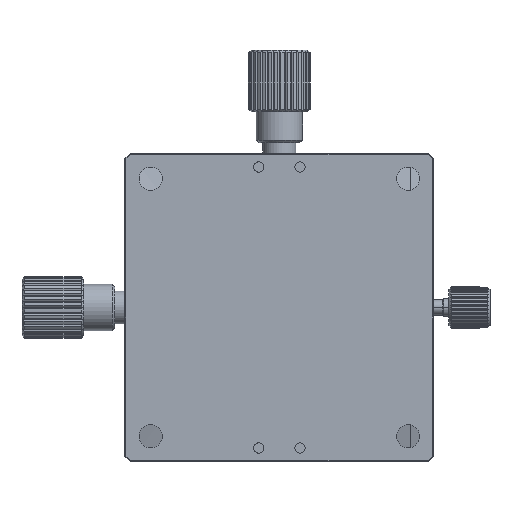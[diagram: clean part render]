
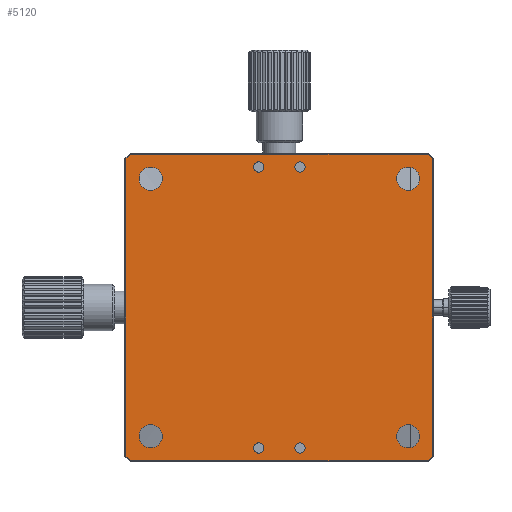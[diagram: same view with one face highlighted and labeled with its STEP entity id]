
A CAD part, front view. The second image highlights one B-rep face of the part: STEP entity #5120.
In plain terms, the highlighted planar face has unit normal (0, -1, 0).
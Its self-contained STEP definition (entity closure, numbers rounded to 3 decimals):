
#1101=CARTESIAN_POINT('',(25.,-10.,-25.));
#1102=DIRECTION('',(0.,1.,0.));
#1103=DIRECTION('',(1.,0.,0.));
#1104=AXIS2_PLACEMENT_3D('',#1101,#1102,#1103);
#1106=CARTESIAN_POINT('',(25.,-10.,-25.));
#1107=DIRECTION('',(0.,1.,0.));
#1108=DIRECTION('',(-1.,0.,0.));
#1109=AXIS2_PLACEMENT_3D('',#1106,#1107,#1108);
#1111=CARTESIAN_POINT('',(-25.,-10.,-25.));
#1112=DIRECTION('',(0.,1.,0.));
#1113=DIRECTION('',(1.,0.,0.));
#1114=AXIS2_PLACEMENT_3D('',#1111,#1112,#1113);
#1116=CARTESIAN_POINT('',(-25.,-10.,-25.));
#1117=DIRECTION('',(0.,1.,0.));
#1118=DIRECTION('',(-1.,0.,0.));
#1119=AXIS2_PLACEMENT_3D('',#1116,#1117,#1118);
#1121=CARTESIAN_POINT('',(25.,-10.,25.));
#1122=DIRECTION('',(0.,1.,0.));
#1123=DIRECTION('',(1.,0.,0.));
#1124=AXIS2_PLACEMENT_3D('',#1121,#1122,#1123);
#1126=CARTESIAN_POINT('',(25.,-10.,25.));
#1127=DIRECTION('',(0.,1.,0.));
#1128=DIRECTION('',(-1.,0.,0.));
#1129=AXIS2_PLACEMENT_3D('',#1126,#1127,#1128);
#1131=CARTESIAN_POINT('',(-25.,-10.,25.));
#1132=DIRECTION('',(0.,1.,0.));
#1133=DIRECTION('',(1.,0.,0.));
#1134=AXIS2_PLACEMENT_3D('',#1131,#1132,#1133);
#1136=CARTESIAN_POINT('',(-25.,-10.,25.));
#1137=DIRECTION('',(0.,1.,0.));
#1138=DIRECTION('',(-1.,0.,0.));
#1139=AXIS2_PLACEMENT_3D('',#1136,#1137,#1138);
#1141=DIRECTION('',(1.,0.,0.));
#1142=VECTOR('',#1141,57.834);
#1143=CARTESIAN_POINT('',(-28.917,-10.,-29.8));
#1144=LINE('',#1143,#1142);
#1145=DIRECTION('',(0.707,0.,-0.707));
#1146=VECTOR('',#1145,1.249);
#1147=CARTESIAN_POINT('',(-29.8,-10.,-28.917));
#1148=LINE('',#1147,#1146);
#1149=DIRECTION('',(0.,0.,-1.));
#1150=VECTOR('',#1149,57.834);
#1151=CARTESIAN_POINT('',(-29.8,-10.,28.917));
#1152=LINE('',#1151,#1150);
#1153=DIRECTION('',(-0.707,0.,-0.707));
#1154=VECTOR('',#1153,1.249);
#1155=CARTESIAN_POINT('',(-28.917,-10.,29.8));
#1156=LINE('',#1155,#1154);
#1157=DIRECTION('',(-1.,0.,0.));
#1158=VECTOR('',#1157,57.834);
#1159=CARTESIAN_POINT('',(28.917,-10.,29.8));
#1160=LINE('',#1159,#1158);
#1161=DIRECTION('',(-0.707,0.,0.707));
#1162=VECTOR('',#1161,1.249);
#1163=CARTESIAN_POINT('',(29.8,-10.,28.917));
#1164=LINE('',#1163,#1162);
#1165=DIRECTION('',(0.,0.,1.));
#1166=VECTOR('',#1165,57.834);
#1167=CARTESIAN_POINT('',(29.8,-10.,-28.917));
#1168=LINE('',#1167,#1166);
#1169=DIRECTION('',(0.707,0.,0.707));
#1170=VECTOR('',#1169,1.249);
#1171=CARTESIAN_POINT('',(28.917,-10.,-29.8));
#1172=LINE('',#1171,#1170);
#1173=CARTESIAN_POINT('',(4.,-10.,-27.3));
#1174=DIRECTION('',(0.,-1.,0.));
#1175=DIRECTION('',(-1.,0.,0.));
#1176=AXIS2_PLACEMENT_3D('',#1173,#1174,#1175);
#1178=CARTESIAN_POINT('',(4.,-10.,-27.3));
#1179=DIRECTION('',(0.,-1.,0.));
#1180=DIRECTION('',(1.,0.,0.));
#1181=AXIS2_PLACEMENT_3D('',#1178,#1179,#1180);
#1183=CARTESIAN_POINT('',(-4.,-10.,-27.3));
#1184=DIRECTION('',(0.,-1.,0.));
#1185=DIRECTION('',(-1.,0.,0.));
#1186=AXIS2_PLACEMENT_3D('',#1183,#1184,#1185);
#1188=CARTESIAN_POINT('',(-4.,-10.,-27.3));
#1189=DIRECTION('',(0.,-1.,0.));
#1190=DIRECTION('',(1.,0.,0.));
#1191=AXIS2_PLACEMENT_3D('',#1188,#1189,#1190);
#1193=CARTESIAN_POINT('',(4.,-10.,27.3));
#1194=DIRECTION('',(0.,-1.,0.));
#1195=DIRECTION('',(-1.,0.,0.));
#1196=AXIS2_PLACEMENT_3D('',#1193,#1194,#1195);
#1198=CARTESIAN_POINT('',(4.,-10.,27.3));
#1199=DIRECTION('',(0.,-1.,0.));
#1200=DIRECTION('',(1.,0.,0.));
#1201=AXIS2_PLACEMENT_3D('',#1198,#1199,#1200);
#1203=CARTESIAN_POINT('',(-4.,-10.,27.3));
#1204=DIRECTION('',(0.,-1.,0.));
#1205=DIRECTION('',(-1.,0.,0.));
#1206=AXIS2_PLACEMENT_3D('',#1203,#1204,#1205);
#1208=CARTESIAN_POINT('',(-4.,-10.,27.3));
#1209=DIRECTION('',(0.,-1.,0.));
#1210=DIRECTION('',(1.,0.,0.));
#1211=AXIS2_PLACEMENT_3D('',#1208,#1209,#1210);
#2960=CARTESIAN_POINT('',(27.25,-10.,-25.));
#2961=CARTESIAN_POINT('',(22.75,-10.,-25.));
#2962=VERTEX_POINT('',#2960);
#2963=VERTEX_POINT('',#2961);
#2964=CARTESIAN_POINT('',(-22.75,-10.,-25.));
#2965=CARTESIAN_POINT('',(-27.25,-10.,-25.));
#2966=VERTEX_POINT('',#2964);
#2967=VERTEX_POINT('',#2965);
#2968=CARTESIAN_POINT('',(27.25,-10.,25.));
#2969=CARTESIAN_POINT('',(22.75,-10.,25.));
#2970=VERTEX_POINT('',#2968);
#2971=VERTEX_POINT('',#2969);
#2972=CARTESIAN_POINT('',(-22.75,-10.,25.));
#2973=CARTESIAN_POINT('',(-27.25,-10.,25.));
#2974=VERTEX_POINT('',#2972);
#2975=VERTEX_POINT('',#2973);
#3464=CARTESIAN_POINT('',(-28.917,-10.,-29.8));
#3465=CARTESIAN_POINT('',(28.917,-10.,-29.8));
#3466=VERTEX_POINT('',#3464);
#3467=VERTEX_POINT('',#3465);
#3468=CARTESIAN_POINT('',(-29.8,-10.,-28.917));
#3469=VERTEX_POINT('',#3468);
#3474=CARTESIAN_POINT('',(-29.8,-10.,28.917));
#3475=VERTEX_POINT('',#3474);
#3478=CARTESIAN_POINT('',(-28.917,-10.,29.8));
#3479=VERTEX_POINT('',#3478);
#3482=CARTESIAN_POINT('',(28.917,-10.,29.8));
#3483=VERTEX_POINT('',#3482);
#3484=CARTESIAN_POINT('',(29.8,-10.,28.917));
#3485=VERTEX_POINT('',#3484);
#3490=CARTESIAN_POINT('',(29.8,-10.,-28.917));
#3491=VERTEX_POINT('',#3490);
#3668=CARTESIAN_POINT('',(3.,-10.,-27.3));
#3669=CARTESIAN_POINT('',(5.,-10.,-27.3));
#3670=VERTEX_POINT('',#3668);
#3671=VERTEX_POINT('',#3669);
#3672=CARTESIAN_POINT('',(-5.,-10.,-27.3));
#3673=CARTESIAN_POINT('',(-3.,-10.,-27.3));
#3674=VERTEX_POINT('',#3672);
#3675=VERTEX_POINT('',#3673);
#3676=CARTESIAN_POINT('',(3.,-10.,27.3));
#3677=CARTESIAN_POINT('',(5.,-10.,27.3));
#3678=VERTEX_POINT('',#3676);
#3679=VERTEX_POINT('',#3677);
#3680=CARTESIAN_POINT('',(-5.,-10.,27.3));
#3681=CARTESIAN_POINT('',(-3.,-10.,27.3));
#3682=VERTEX_POINT('',#3680);
#3683=VERTEX_POINT('',#3681);
#5050=CARTESIAN_POINT('',(0.,-10.,0.));
#5051=DIRECTION('',(0.,1.,0.));
#5052=DIRECTION('',(1.,0.,0.));
#5053=AXIS2_PLACEMENT_3D('',#5050,#5051,#5052);
#5054=PLANE('',#5053);
#5056=ORIENTED_EDGE('',*,*,#5055,.F.);
#5058=ORIENTED_EDGE('',*,*,#5057,.F.);
#5060=ORIENTED_EDGE('',*,*,#5059,.F.);
#5062=ORIENTED_EDGE('',*,*,#5061,.F.);
#5064=ORIENTED_EDGE('',*,*,#5063,.F.);
#5066=ORIENTED_EDGE('',*,*,#5065,.F.);
#5068=ORIENTED_EDGE('',*,*,#5067,.F.);
#5070=ORIENTED_EDGE('',*,*,#5069,.F.);
#5071=EDGE_LOOP('',(#5056,#5058,#5060,#5062,#5064,#5066,#5068,#5070));
#5072=FACE_OUTER_BOUND('',#5071,.F.);
#5074=ORIENTED_EDGE('',*,*,#5073,.F.);
#5076=ORIENTED_EDGE('',*,*,#5075,.F.);
#5077=EDGE_LOOP('',(#5074,#5076));
#5078=FACE_BOUND('',#5077,.F.);
#5080=ORIENTED_EDGE('',*,*,#5079,.F.);
#5082=ORIENTED_EDGE('',*,*,#5081,.F.);
#5083=EDGE_LOOP('',(#5080,#5082));
#5084=FACE_BOUND('',#5083,.F.);
#5086=ORIENTED_EDGE('',*,*,#5085,.F.);
#5088=ORIENTED_EDGE('',*,*,#5087,.F.);
#5089=EDGE_LOOP('',(#5086,#5088));
#5090=FACE_BOUND('',#5089,.F.);
#5092=ORIENTED_EDGE('',*,*,#5091,.F.);
#5094=ORIENTED_EDGE('',*,*,#5093,.F.);
#5095=EDGE_LOOP('',(#5092,#5094));
#5096=FACE_BOUND('',#5095,.F.);
#5097=ORIENTED_EDGE('',*,*,#5040,.T.);
#5099=ORIENTED_EDGE('',*,*,#5098,.T.);
#5100=EDGE_LOOP('',(#5097,#5099));
#5101=FACE_BOUND('',#5100,.F.);
#5103=ORIENTED_EDGE('',*,*,#5102,.T.);
#5105=ORIENTED_EDGE('',*,*,#5104,.T.);
#5106=EDGE_LOOP('',(#5103,#5105));
#5107=FACE_BOUND('',#5106,.F.);
#5109=ORIENTED_EDGE('',*,*,#5108,.T.);
#5111=ORIENTED_EDGE('',*,*,#5110,.T.);
#5112=EDGE_LOOP('',(#5109,#5111));
#5113=FACE_BOUND('',#5112,.F.);
#5115=ORIENTED_EDGE('',*,*,#5114,.T.);
#5117=ORIENTED_EDGE('',*,*,#5116,.T.);
#5118=EDGE_LOOP('',(#5115,#5117));
#5119=FACE_BOUND('',#5118,.F.);
#5120=ADVANCED_FACE('',(#5072,#5078,#5084,#5090,#5096,#5101,#5107,#5113,#5119),
#5054,.F.);
#1105=CIRCLE('',#1104,2.25);
#1110=CIRCLE('',#1109,2.25);
#1115=CIRCLE('',#1114,2.25);
#1120=CIRCLE('',#1119,2.25);
#1125=CIRCLE('',#1124,2.25);
#1130=CIRCLE('',#1129,2.25);
#1135=CIRCLE('',#1134,2.25);
#1140=CIRCLE('',#1139,2.25);
#1177=CIRCLE('',#1176,1.);
#1182=CIRCLE('',#1181,1.);
#1187=CIRCLE('',#1186,1.);
#1192=CIRCLE('',#1191,1.);
#1197=CIRCLE('',#1196,1.);
#1202=CIRCLE('',#1201,1.);
#1207=CIRCLE('',#1206,1.);
#1212=CIRCLE('',#1211,1.);
#5040=EDGE_CURVE('',#3670,#3671,#1177,.T.);
#5055=EDGE_CURVE('',#3466,#3467,#1144,.T.);
#5057=EDGE_CURVE('',#3469,#3466,#1148,.T.);
#5059=EDGE_CURVE('',#3475,#3469,#1152,.T.);
#5061=EDGE_CURVE('',#3479,#3475,#1156,.T.);
#5063=EDGE_CURVE('',#3483,#3479,#1160,.T.);
#5065=EDGE_CURVE('',#3485,#3483,#1164,.T.);
#5067=EDGE_CURVE('',#3491,#3485,#1168,.T.);
#5069=EDGE_CURVE('',#3467,#3491,#1172,.T.);
#5073=EDGE_CURVE('',#2966,#2967,#1115,.T.);
#5075=EDGE_CURVE('',#2967,#2966,#1120,.T.);
#5079=EDGE_CURVE('',#2970,#2971,#1125,.T.);
#5081=EDGE_CURVE('',#2971,#2970,#1130,.T.);
#5085=EDGE_CURVE('',#2974,#2975,#1135,.T.);
#5087=EDGE_CURVE('',#2975,#2974,#1140,.T.);
#5091=EDGE_CURVE('',#2962,#2963,#1105,.T.);
#5093=EDGE_CURVE('',#2963,#2962,#1110,.T.);
#5098=EDGE_CURVE('',#3671,#3670,#1182,.T.);
#5102=EDGE_CURVE('',#3674,#3675,#1187,.T.);
#5104=EDGE_CURVE('',#3675,#3674,#1192,.T.);
#5108=EDGE_CURVE('',#3678,#3679,#1197,.T.);
#5110=EDGE_CURVE('',#3679,#3678,#1202,.T.);
#5114=EDGE_CURVE('',#3682,#3683,#1207,.T.);
#5116=EDGE_CURVE('',#3683,#3682,#1212,.T.);
